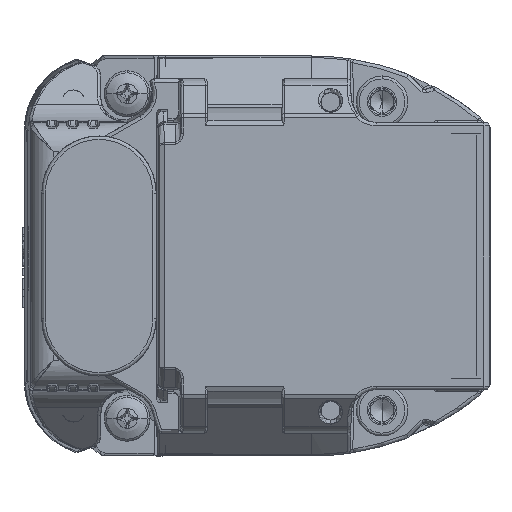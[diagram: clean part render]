
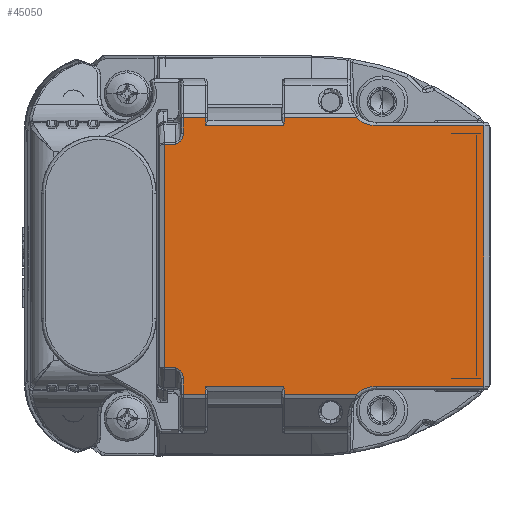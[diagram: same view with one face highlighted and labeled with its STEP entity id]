
A CAD part, front view. The second image highlights one B-rep face of the part: STEP entity #45050.
In plain terms, the highlighted planar face has unit normal (0, -1, 0).
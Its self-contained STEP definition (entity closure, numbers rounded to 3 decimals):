
#34205=DIRECTION('',(-1.,0.,0.));
#34206=VECTOR('',#34205,0.989);
#34207=CARTESIAN_POINT('',(13.219,-678.1,-27.267));
#34208=LINE('',#34207,#34206);
#34219=CARTESIAN_POINT('',(30.8,-678.1,-31.4));
#34220=DIRECTION('',(0.,-1.,0.));
#34221=DIRECTION('',(0.,0.,1.));
#34222=AXIS2_PLACEMENT_3D('',#34219,#34220,#34221);
#34227=CARTESIAN_POINT('',(13.915,-678.1,-28.251));
#34228=CARTESIAN_POINT('',(13.915,-678.1,-27.714));
#34229=CARTESIAN_POINT('',(13.599,-678.1,-27.267));
#34230=CARTESIAN_POINT('',(13.219,-678.1,-27.267));
#34235=CARTESIAN_POINT('',(13.219,-678.1,-7.733));
#34236=CARTESIAN_POINT('',(13.599,-678.1,-7.733));
#34237=CARTESIAN_POINT('',(13.915,-678.1,-7.286));
#34238=CARTESIAN_POINT('',(13.915,-678.1,-6.749));
#34243=CARTESIAN_POINT('',(30.8,-678.1,-3.6));
#34244=DIRECTION('',(0.,-1.,0.));
#34245=DIRECTION('',(-0.691,0.,
-0.723));
#34246=AXIS2_PLACEMENT_3D('',#34243,#34244,#34245);
#34258=DIRECTION('',(0.,0.,-1.));
#34259=VECTOR('',#34258,22.8);
#34260=CARTESIAN_POINT('',(40.2,-678.1,-6.1));
#34261=LINE('',#34260,#34259);
#34957=DIRECTION('',(1.,0.,0.));
#34958=VECTOR('',#34957,9.4);
#34959=CARTESIAN_POINT('',(30.8,-678.1,-6.1));
#34960=LINE('',#34959,#34958);
#35467=DIRECTION('',(1.,0.,0.));
#35468=VECTOR('',#35467,6.338);
#35469=CARTESIAN_POINT('',(22.734,-678.1,-5.407));
#35470=LINE('',#35469,#35468);
#35892=DIRECTION('',(0.,0.,1.));
#35893=VECTOR('',#35892,1.342);
#35894=CARTESIAN_POINT('',(13.915,-678.1,-6.749));
#35895=LINE('',#35894,#35893);
#35922=DIRECTION('',(1.,0.,0.));
#35923=VECTOR('',#35922,0.989);
#35924=CARTESIAN_POINT('',(12.23,-678.1,-7.733));
#35925=LINE('',#35924,#35923);
#36825=DIRECTION('',(1.,0.,0.));
#36826=VECTOR('',#36825,1.951);
#36827=CARTESIAN_POINT('',(13.915,-678.1,-5.407));
#36828=LINE('',#36827,#36826);
#36885=DIRECTION('',(0.017,0.,-1.));
#36886=VECTOR('',#36885,0.643);
#36887=CARTESIAN_POINT('',(15.866,-678.1,-5.407));
#36888=LINE('',#36887,#36886);
#36907=DIRECTION('',(1.,0.,0.));
#36908=VECTOR('',#36907,6.846);
#36909=CARTESIAN_POINT('',(15.877,-678.1,-6.05));
#36910=LINE('',#36909,#36908);
#37004=DIRECTION('',(0.017,0.,1.));
#37005=VECTOR('',#37004,0.643);
#37006=CARTESIAN_POINT('',(22.723,-678.1,-6.05));
#37007=LINE('',#37006,#37005);
#38415=DIRECTION('',(-1.,0.,0.));
#38416=VECTOR('',#38415,9.4);
#38417=CARTESIAN_POINT('',(40.2,-678.1,-28.9));
#38418=LINE('',#38417,#38416);
#39123=DIRECTION('',(-1.,0.,0.));
#39124=VECTOR('',#39123,6.338);
#39125=CARTESIAN_POINT('',(29.072,-678.1,-29.593));
#39126=LINE('',#39125,#39124);
#39169=DIRECTION('',(-0.017,0.,1.));
#39170=VECTOR('',#39169,0.643);
#39171=CARTESIAN_POINT('',(22.734,-678.1,-29.593));
#39172=LINE('',#39171,#39170);
#39191=DIRECTION('',(-1.,0.,0.));
#39192=VECTOR('',#39191,6.846);
#39193=CARTESIAN_POINT('',(22.723,-678.1,-28.95));
#39194=LINE('',#39193,#39192);
#39493=DIRECTION('',(-1.,0.,0.));
#39494=VECTOR('',#39493,1.951);
#39495=CARTESIAN_POINT('',(15.866,-678.1,-29.593));
#39496=LINE('',#39495,#39494);
#39523=DIRECTION('',(-0.017,0.,-1.));
#39524=VECTOR('',#39523,0.643);
#39525=CARTESIAN_POINT('',(15.877,-678.1,-28.95));
#39526=LINE('',#39525,#39524);
#39575=DIRECTION('',(0.,0.,1.));
#39576=VECTOR('',#39575,1.342);
#39577=CARTESIAN_POINT('',(13.915,-678.1,-29.593));
#39578=LINE('',#39577,#39576);
#40318=DIRECTION('',(0.,0.,1.));
#40319=VECTOR('',#40318,19.534);
#40320=CARTESIAN_POINT('',(12.23,-678.1,-27.267));
#40321=LINE('',#40320,#40319);
#41499=CARTESIAN_POINT('',(12.23,-678.1,-7.733));
#41501=VERTEX_POINT('',#41499);
#42304=CARTESIAN_POINT('',(13.915,-678.1,-29.593));
#42305=VERTEX_POINT('',#42304);
#42332=CARTESIAN_POINT('',(13.915,-678.1,-5.407));
#42334=VERTEX_POINT('',#42332);
#42336=CARTESIAN_POINT('',(13.219,-678.1,-7.733));
#42338=VERTEX_POINT('',#42336);
#42340=CARTESIAN_POINT('',(13.915,-678.1,-6.749));
#42341=VERTEX_POINT('',#42340);
#42342=CARTESIAN_POINT('',(40.2,-678.1,-6.1));
#42343=CARTESIAN_POINT('',(40.2,-678.1,-28.9));
#42344=VERTEX_POINT('',#42342);
#42345=VERTEX_POINT('',#42343);
#42346=CARTESIAN_POINT('',(30.8,-678.1,-28.9));
#42347=VERTEX_POINT('',#42346);
#42348=CARTESIAN_POINT('',(29.072,-678.1,-29.593));
#42349=VERTEX_POINT('',#42348);
#42350=CARTESIAN_POINT('',(22.734,-678.1,-29.593));
#42351=VERTEX_POINT('',#42350);
#42352=CARTESIAN_POINT('',(22.723,-678.1,-28.95));
#42353=VERTEX_POINT('',#42352);
#42354=CARTESIAN_POINT('',(15.877,-678.1,-28.95));
#42355=VERTEX_POINT('',#42354);
#42356=CARTESIAN_POINT('',(15.866,-678.1,-29.593));
#42357=VERTEX_POINT('',#42356);
#42358=CARTESIAN_POINT('',(13.915,-678.1,-28.251));
#42359=VERTEX_POINT('',#42358);
#42360=VERTEX_POINT('',#34230);
#42361=CARTESIAN_POINT('',(12.23,-678.1,-27.267));
#42362=VERTEX_POINT('',#42361);
#42363=CARTESIAN_POINT('',(15.866,-678.1,-5.407));
#42364=VERTEX_POINT('',#42363);
#42365=CARTESIAN_POINT('',(15.877,-678.1,-6.05));
#42366=VERTEX_POINT('',#42365);
#42367=CARTESIAN_POINT('',(22.723,-678.1,-6.05));
#42368=VERTEX_POINT('',#42367);
#42369=CARTESIAN_POINT('',(22.734,-678.1,-5.407));
#42370=VERTEX_POINT('',#42369);
#42371=CARTESIAN_POINT('',(29.072,-678.1,-5.407));
#42372=VERTEX_POINT('',#42371);
#42373=CARTESIAN_POINT('',(30.8,-678.1,-6.1));
#42374=VERTEX_POINT('',#42373);
#45000=CARTESIAN_POINT('',(26.215,-678.1,-17.5));
#45001=DIRECTION('',(0.,1.,0.));
#45002=DIRECTION('',(0.,0.,1.));
#45003=AXIS2_PLACEMENT_3D('',#45000,#45001,#45002);
#45004=PLANE('',#45003);
#45006=ORIENTED_EDGE('',*,*,#45005,.T.);
#45008=ORIENTED_EDGE('',*,*,#45007,.T.);
#45010=ORIENTED_EDGE('',*,*,#45009,.T.);
#45012=ORIENTED_EDGE('',*,*,#45011,.T.);
#45014=ORIENTED_EDGE('',*,*,#45013,.T.);
#45016=ORIENTED_EDGE('',*,*,#45015,.T.);
#45018=ORIENTED_EDGE('',*,*,#45017,.T.);
#45020=ORIENTED_EDGE('',*,*,#45019,.T.);
#45022=ORIENTED_EDGE('',*,*,#45021,.T.);
#45024=ORIENTED_EDGE('',*,*,#45023,.T.);
#45025=ORIENTED_EDGE('',*,*,#44990,.T.);
#45027=ORIENTED_EDGE('',*,*,#45026,.T.);
#45029=ORIENTED_EDGE('',*,*,#45028,.T.);
#45031=ORIENTED_EDGE('',*,*,#45030,.T.);
#45033=ORIENTED_EDGE('',*,*,#45032,.T.);
#45035=ORIENTED_EDGE('',*,*,#45034,.T.);
#45037=ORIENTED_EDGE('',*,*,#45036,.T.);
#45039=ORIENTED_EDGE('',*,*,#45038,.T.);
#45041=ORIENTED_EDGE('',*,*,#45040,.T.);
#45043=ORIENTED_EDGE('',*,*,#45042,.T.);
#45045=ORIENTED_EDGE('',*,*,#45044,.T.);
#45047=ORIENTED_EDGE('',*,*,#45046,.T.);
#45048=EDGE_LOOP('',(#45006,#45008,#45010,#45012,#45014,#45016,#45018,#45020,
#45022,#45024,#45025,#45027,#45029,#45031,#45033,#45035,#45037,#45039,#45041,
#45043,#45045,#45047));
#45049=FACE_OUTER_BOUND('',#45048,.F.);
#45050=ADVANCED_FACE('',(#45049),#45004,.F.);
#34223=CIRCLE('',#34222,2.5);
#34231=B_SPLINE_CURVE_WITH_KNOTS('',3,(#34227,#34228,#34229,#34230),
.UNSPECIFIED.,.F.,.F.,(4,4),(0.,1.),.UNSPECIFIED.);
#34239=B_SPLINE_CURVE_WITH_KNOTS('',3,(#34235,#34236,#34237,#34238),
.UNSPECIFIED.,.F.,.F.,(4,4),(0.,1.),.UNSPECIFIED.);
#34247=CIRCLE('',#34246,2.5);
#44990=EDGE_CURVE('',#42360,#42362,#34208,.T.);
#45005=EDGE_CURVE('',#42344,#42345,#34261,.T.);
#45007=EDGE_CURVE('',#42345,#42347,#38418,.T.);
#45009=EDGE_CURVE('',#42347,#42349,#34223,.T.);
#45011=EDGE_CURVE('',#42349,#42351,#39126,.T.);
#45013=EDGE_CURVE('',#42351,#42353,#39172,.T.);
#45015=EDGE_CURVE('',#42353,#42355,#39194,.T.);
#45017=EDGE_CURVE('',#42355,#42357,#39526,.T.);
#45019=EDGE_CURVE('',#42357,#42305,#39496,.T.);
#45021=EDGE_CURVE('',#42305,#42359,#39578,.T.);
#45023=EDGE_CURVE('',#42359,#42360,#34231,.T.);
#45026=EDGE_CURVE('',#42362,#41501,#40321,.T.);
#45028=EDGE_CURVE('',#41501,#42338,#35925,.T.);
#45030=EDGE_CURVE('',#42338,#42341,#34239,.T.);
#45032=EDGE_CURVE('',#42341,#42334,#35895,.T.);
#45034=EDGE_CURVE('',#42334,#42364,#36828,.T.);
#45036=EDGE_CURVE('',#42364,#42366,#36888,.T.);
#45038=EDGE_CURVE('',#42366,#42368,#36910,.T.);
#45040=EDGE_CURVE('',#42368,#42370,#37007,.T.);
#45042=EDGE_CURVE('',#42370,#42372,#35470,.T.);
#45044=EDGE_CURVE('',#42372,#42374,#34247,.T.);
#45046=EDGE_CURVE('',#42374,#42344,#34960,.T.);
